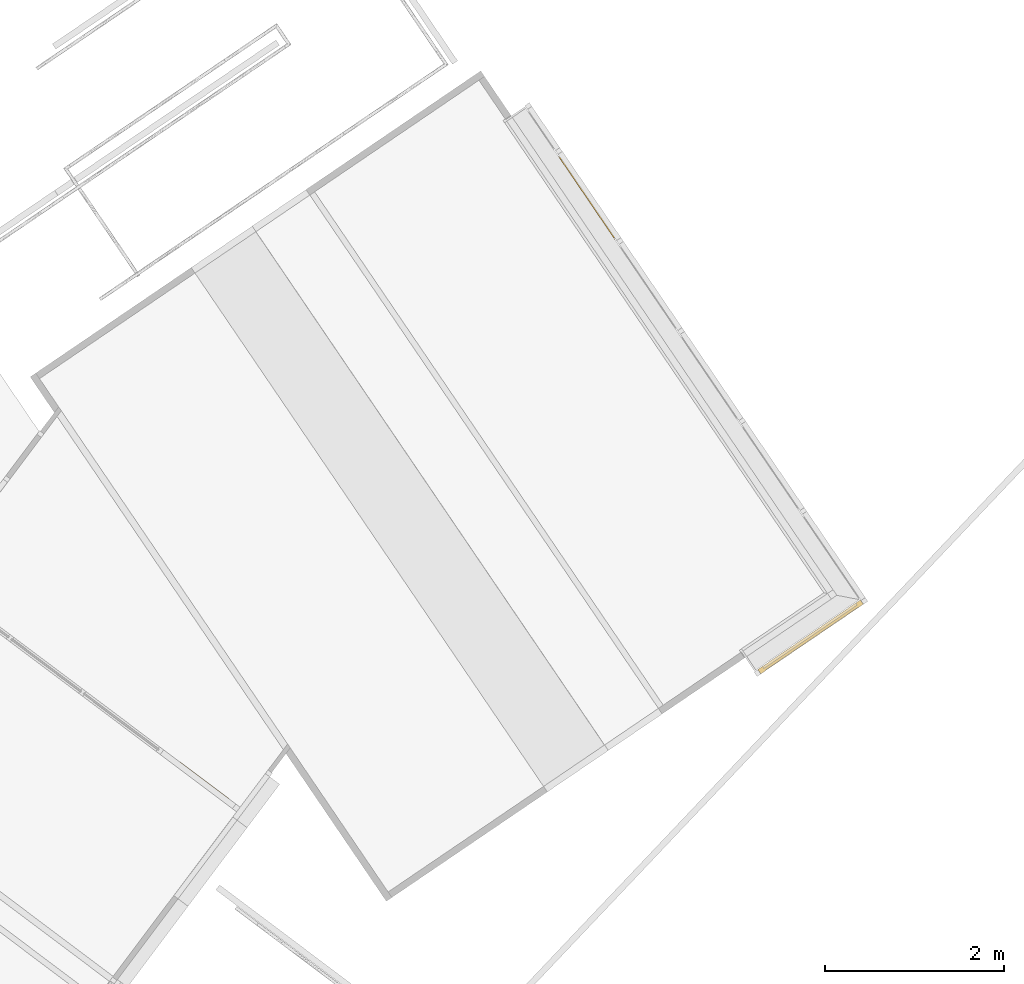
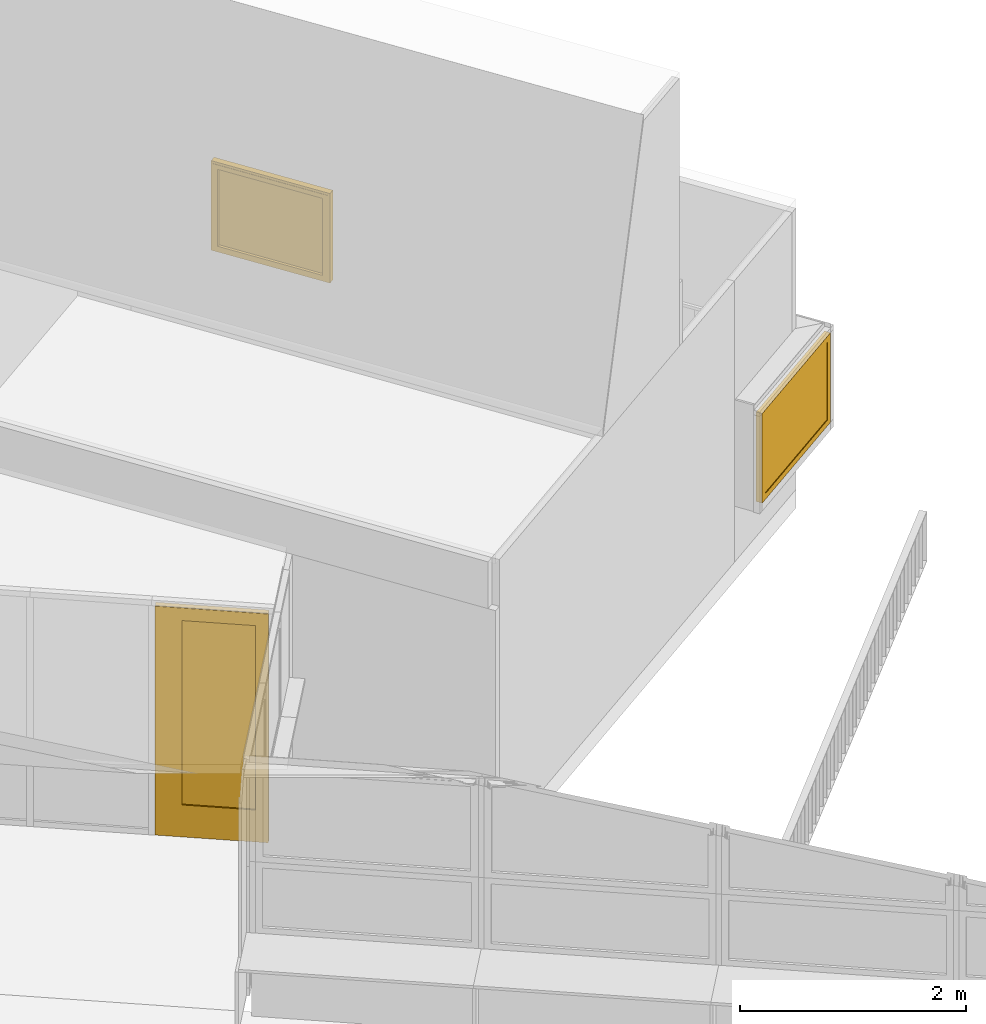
# One storey, part 237 of 243: 2 windows, 1 door, 3 elements without a shape of their own.
"""IFC2X3 building model written with IfcOpenShell, lengths in metres."""

from ifc_helpers import new_model, entity, si_unit, converted_unit, derived_unit, direction, frame, origin, place, context, subcontext, project, spatial, faceted_brep, source, transform, mapped, material, material_list, type_object, type_shapes, element, aggregate, save


model = new_model("IFC2X3")

# Units and contexts
model_context = context("Model", 3, precision=1e-05, world=origin(), true_north=direction((6.123031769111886e-17, 1.0)))
body_context = subcontext(model_context, "Body", "Model", "MODEL_VIEW")
ifc_project = project(units=[si_unit("LENGTHUNIT", "METRE"), si_unit("AREAUNIT", "SQUARE_METRE"), si_unit("VOLUMEUNIT", "CUBIC_METRE"), converted_unit("PLANEANGLEUNIT", "DEGREE", entity("IfcRatioMeasure", 0.017453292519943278), si_unit("PLANEANGLEUNIT", "RADIAN"), dimensions=[0, 0, 0, 0, 0, 0, 0]), si_unit("MASSUNIT", "GRAM", prefix="KILO"), derived_unit("MASSDENSITYUNIT", [(si_unit("MASSUNIT", "GRAM", prefix="KILO"), 1), (si_unit("LENGTHUNIT", "METRE"), -3)]), derived_unit("IONCONCENTRATIONUNIT", [(si_unit("MASSUNIT", "GRAM", prefix="KILO"), 1), (si_unit("LENGTHUNIT", "METRE"), -3)]), derived_unit("MOMENTOFINERTIAUNIT", [(si_unit("LENGTHUNIT", "METRE"), 4)]), si_unit("TIMEUNIT", "SECOND"), si_unit("FREQUENCYUNIT", "HERTZ"), si_unit("THERMODYNAMICTEMPERATUREUNIT", "DEGREE_CELSIUS"), derived_unit("THERMALTRANSMITTANCEUNIT", [(si_unit("MASSUNIT", "GRAM", prefix="KILO"), 1), (si_unit("THERMODYNAMICTEMPERATUREUNIT", "KELVIN"), -1), (si_unit("TIMEUNIT", "SECOND"), -3)]), derived_unit("THERMALCONDUCTANCEUNIT", [(si_unit("MASSUNIT", "GRAM", prefix="KILO"), 1), (si_unit("THERMODYNAMICTEMPERATUREUNIT", "KELVIN"), -1), (si_unit("TIMEUNIT", "SECOND"), -3), (si_unit("LENGTHUNIT", "METRE"), 1)]), derived_unit("VOLUMETRICFLOWRATEUNIT", [(si_unit("LENGTHUNIT", "METRE"), 3), (si_unit("TIMEUNIT", "SECOND"), -1)]), derived_unit("MASSFLOWRATEUNIT", [(si_unit("MASSUNIT", "GRAM", prefix="KILO"), 1), (si_unit("TIMEUNIT", "SECOND"), -1)]), derived_unit("ROTATIONALFREQUENCYUNIT", [(si_unit("TIMEUNIT", "SECOND"), -1)]), si_unit("ELECTRICCURRENTUNIT", "AMPERE"), si_unit("ELECTRICVOLTAGEUNIT", "VOLT"), si_unit("POWERUNIT", "WATT"), si_unit("FORCEUNIT", "NEWTON", prefix="KILO"), si_unit("ILLUMINANCEUNIT", "LUX"), si_unit("LUMINOUSFLUXUNIT", "LUMEN"), si_unit("LUMINOUSINTENSITYUNIT", "CANDELA"), derived_unit("USERDEFINED", [(si_unit("MASSUNIT", "GRAM", prefix="KILO"), -1), (si_unit("LENGTHUNIT", "METRE"), -2), (si_unit("TIMEUNIT", "SECOND"), 3), (si_unit("LUMINOUSFLUXUNIT", "LUMEN"), 1)]), derived_unit("USERDEFINED", [(si_unit("MASSUNIT", "GRAM", prefix="KILO"), 1), (si_unit("TIMEUNIT", "SECOND"), -3), (si_unit("LENGTHUNIT", "METRE"), 3), (si_unit("ELECTRICCURRENTUNIT", "AMPERE"), -2)]), derived_unit("SOUNDPOWERUNIT", [(si_unit("MASSUNIT", "GRAM", prefix="KILO"), 1), (si_unit("TIMEUNIT", "SECOND"), -3), (si_unit("LENGTHUNIT", "METRE"), 2)]), derived_unit("SOUNDPRESSUREUNIT", [(si_unit("MASSUNIT", "GRAM", prefix="KILO"), 1), (si_unit("LENGTHUNIT", "METRE"), -1), (si_unit("TIMEUNIT", "SECOND"), -2)]), derived_unit("LINEARVELOCITYUNIT", [(si_unit("LENGTHUNIT", "METRE"), 1), (si_unit("TIMEUNIT", "SECOND"), -1)]), si_unit("PRESSUREUNIT", "PASCAL"), derived_unit("USERDEFINED", [(si_unit("MASSUNIT", "GRAM", prefix="KILO"), 1), (si_unit("LENGTHUNIT", "METRE"), -2), (si_unit("TIMEUNIT", "SECOND"), -2)]), derived_unit("LINEARFORCEUNIT", [(si_unit("MASSUNIT", "GRAM", prefix="KILO"), 1), (si_unit("TIMEUNIT", "SECOND"), -2)]), derived_unit("PLANARFORCEUNIT", [(si_unit("MASSUNIT", "GRAM", prefix="KILO"), 1), (si_unit("LENGTHUNIT", "METRE"), -1), (si_unit("TIMEUNIT", "SECOND"), -2)]), derived_unit("SPECIFICHEATCAPACITYUNIT", [(si_unit("THERMODYNAMICTEMPERATUREUNIT", "KELVIN"), -1), (si_unit("LENGTHUNIT", "METRE"), 2), (si_unit("TIMEUNIT", "SECOND"), -2)]), derived_unit("HEATINGVALUEUNIT", [(si_unit("LENGTHUNIT", "METRE"), 2), (si_unit("TIMEUNIT", "SECOND"), -2)]), derived_unit("VAPORPERMEABILITYUNIT", [(si_unit("LENGTHUNIT", "METRE"), -1), (si_unit("TIMEUNIT", "SECOND"), 1)]), derived_unit("DYNAMICVISCOSITYUNIT", [(si_unit("MASSUNIT", "GRAM", prefix="KILO"), 1), (si_unit("TIMEUNIT", "SECOND"), -1), (si_unit("LENGTHUNIT", "METRE"), -1)]), derived_unit("THERMALEXPANSIONCOEFFICIENTUNIT", [(si_unit("THERMODYNAMICTEMPERATUREUNIT", "KELVIN"), -1)]), derived_unit("MODULUSOFELASTICITYUNIT", [(si_unit("MASSUNIT", "GRAM", prefix="KILO"), 1), (si_unit("LENGTHUNIT", "METRE"), -1), (si_unit("TIMEUNIT", "SECOND"), -2)]), derived_unit("ISOTHERMALMOISTURECAPACITYUNIT", [(si_unit("LENGTHUNIT", "METRE"), 3), (si_unit("MASSUNIT", "GRAM", prefix="KILO"), -1)]), derived_unit("MOISTUREDIFFUSIVITYUNIT", [(si_unit("TIMEUNIT", "SECOND"), -1), (si_unit("LENGTHUNIT", "METRE"), 2)])], contexts=[model_context])

# Site, building, storey
site_placement = place(None, frame((0.0, 0.0, 235.0), z_axis=(0.0, 0.0, 1.0), x_axis=(-0.7996477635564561, 0.6004693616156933, 0.0)))
site = spatial("IfcSite", under=ifc_project, at=site_placement, Name="Default", CompositionType="ELEMENT")
building_placement = place(site_placement, origin())
building = spatial("IfcBuilding", under=site, at=building_placement, CompositionType="ELEMENT")
storey_placement = place(building_placement, origin())
storey = spatial("IfcBuildingStorey", under=building, at=storey_placement, Name="P0- Escola", CompositionType="ELEMENT", Elevation=0.0)

# Curtain wall, door
curtain_wall_type_1 = type_object("IfcCurtainWallType", Name="Muro cortina:MC- INT- C1", PredefinedType="NOTDEFINED")
curtain_wall_1_placement = place(storey_placement, origin())
curtain_wall_1 = element("IfcCurtainWall", 1, at=curtain_wall_1_placement, inside=storey, type_object=curtain_wall_type_1, Name="Muro cortina:MC- INT- C1", ObjectType="Muro cortina:MC- INT- C1")
ifc_material_1 = material(Name="_Fusta massisa- T1")
ifc_material_2 = material(Name="_Vidre")
ifc_material_list_1 = material_list([ifc_material_1, ifc_material_2])
door_style = type_object("IfcDoorStyle", Name="MC- Fusta- conjunt porta:MC- Fusta- conjunt Porta aules", ConstructionType="NOTDEFINED", OperationType="NOTDEFINED", ParameterTakesPrecedence=False, Sizeable=False, material=ifc_material_list_1)
shared_shape_1 = source(origin(), body_context, "Body", "Brep", [
    faceted_brep([(0.2800000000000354, -0.03499999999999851, 2.3522612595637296), (0.2800000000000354, -0.03499999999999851, 0.3299999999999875), (0.2800000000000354, -0.0049999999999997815, 0.3299999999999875), (0.2800000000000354, -0.0049999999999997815, 2.3522612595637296), (-0.40500000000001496, -0.03499999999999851, 0.3299999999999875), (-0.40500000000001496, -0.0049999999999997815, 0.3299999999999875), (-0.40500000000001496, -0.03499999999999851, 2.3522612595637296), (-0.40500000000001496, -0.0049999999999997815, 2.3522612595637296), (0.2650000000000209, -0.0049999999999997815, 2.3372612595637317), (-0.38999999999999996, -0.0049999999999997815, 2.3372612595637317), (-0.38999999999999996, -0.0049999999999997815, 0.3449999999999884), (0.2650000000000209, -0.0049999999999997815, 0.3449999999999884), (0.2650000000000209, -0.03499999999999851, 2.3372612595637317), (0.2650000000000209, -0.03499999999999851, 0.3449999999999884), (-0.38999999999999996, -0.03499999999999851, 0.3449999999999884), (-0.38999999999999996, -0.03499999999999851, 2.3372612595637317)], [[[0, 1, 2, 3]], [[1, 4, 5, 2]], [[4, 6, 7, 5]], [[8, 9, 10, 11], [3, 2, 5, 7]], [[12, 13, 14, 15], [0, 6, 4, 1]], [[13, 12, 8, 11]], [[14, 13, 11, 10]], [[15, 14, 10, 9]], [[6, 0, 3, 7]], [[12, 15, 9, 8]]], outer=[[True], [True], [True], [False, True], [False, True], [True], [True], [True], [True], [True]]),
    faceted_brep([(0.4750000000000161, 0.029999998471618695, 0.0), (0.4750000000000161, 0.0, 0.0), (0.49000000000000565, 0.0, 0.0), (0.49000000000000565, -0.029999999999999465, 0.0), (-0.4899999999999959, -0.029999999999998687, 0.0), (-0.4899999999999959, 0.0, 0.0), (-0.4749999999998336, 0.0, 0.0), (-0.4749999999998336, 0.02999999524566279, 0.0), (0.4900000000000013, -0.02999999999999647, 2.4622612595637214), (-0.4899999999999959, -0.029999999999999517, 2.4622612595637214), (0.28000000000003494, -0.029999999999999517, 0.3300000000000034), (-0.4050000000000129, -0.029999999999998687, 0.3300000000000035), (-0.4050000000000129, -0.029999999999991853, 2.352261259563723), (0.2800000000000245, -0.029999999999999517, 2.352261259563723), (0.4900000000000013, 0.0, 2.4622612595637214), (-0.4899999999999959, 0.0, 2.4622612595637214), (0.4750000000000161, 0.029999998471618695, 2.447261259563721), (0.4750000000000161, 0.0, 2.447261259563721), (-0.4749999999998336, 0.0, 2.447261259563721), (-0.4749999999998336, 0.02999999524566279, 2.447261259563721), (-0.389999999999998, 0.029999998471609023, 0.3450000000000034), (0.26500000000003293, 0.029999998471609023, 0.3450000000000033), (0.26500000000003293, 0.029999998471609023, 2.337261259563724), (-0.389999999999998, 0.029999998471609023, 2.3372612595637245), (-0.389999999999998, 0.01500000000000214, 0.3450000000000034), (0.26500000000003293, 0.01500000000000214, 0.3450000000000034), (0.26500000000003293, 0.01499999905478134, 2.337261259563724), (-0.389999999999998, 0.02999999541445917, 2.337261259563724), (-0.389999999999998, 0.014999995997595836, 2.337261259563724), (0.26500000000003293, 0.01500000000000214, 2.337261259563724), (-0.4050000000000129, 0.01500000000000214, 0.3300000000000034), (0.280000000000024, 0.01500000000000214, 0.3300000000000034), (0.280000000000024, 0.01500000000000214, 2.352261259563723), (-0.4050000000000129, 0.01500000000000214, 2.352261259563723), (0.280000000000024, 0.014999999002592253, 0.3300000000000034), (-0.4050000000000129, 0.014999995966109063, 2.352261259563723), (0.280000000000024, 0.014999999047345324, 2.352261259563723)], [[[0, 1, 2, 3, 4, 5, 6, 7]], [[8, 9, 4, 3], [10, 11, 12, 13]], [[8, 3, 2, 14]], [[15, 5, 4, 9]], [[16, 17, 1, 0]], [[14, 2, 1, 17, 18, 6, 5, 15]], [[18, 19, 7, 6]], [[16, 0, 7, 19], [20, 21, 22, 23]], [[21, 20, 24, 25]], [[21, 25, 26, 22]], [[24, 20, 27, 28]], [[25, 24, 28, 29], [30, 31, 32, 33]], [[11, 10, 31, 30]], [[34, 10, 13, 32]], [[11, 30, 35, 12]], [[9, 8, 14, 15]], [[17, 16, 19, 18]], [[23, 22, 29, 28]], [[13, 12, 33, 36]]], outer=[[True], [True, False], [True], [True], [True], [True], [True], [True, False], [True], [True], [True], [False, True], [True], [True], [True], [True], [True], [True], [True]]),
    faceted_brep([(-0.40500000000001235, 0.014999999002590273, 0.3300000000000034), (0.28000000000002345, 0.014999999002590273, 0.3300000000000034), (0.28000000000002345, -0.004999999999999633, 0.3300000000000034), (-0.4050000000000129, -0.0049999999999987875, 0.3300000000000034), (-0.40500000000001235, 0.014999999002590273, 2.3522612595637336), (0.28000000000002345, 0.014999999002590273, 2.3522612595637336), (0.28000000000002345, -0.004999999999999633, 2.3522612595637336), (-0.4050000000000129, -0.0049999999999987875, 2.3522612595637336)], [[[0, 1, 2, 3]], [[4, 5, 1, 0]], [[5, 6, 2, 1]], [[6, 7, 3, 2]], [[7, 4, 0, 3]], [[4, 7, 6, 5]]]),
    faceted_brep([(0.5000000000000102, -0.029999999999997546, 0.0), (0.4900000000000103, -0.029999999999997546, 0.0), (0.4900000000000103, 0.0, 0.0), (0.47500000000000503, 0.0, 0.0), (0.47500000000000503, 0.0300000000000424, 0.0), (0.5000000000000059, 0.0300000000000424, 0.0), (0.5000000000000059, 0.02600000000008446, 0.0), (0.5049999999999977, 0.02600000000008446, 0.0), (0.5049999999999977, -0.02599999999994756, 0.0), (0.5000000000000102, -0.02599999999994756, 0.0), (0.5000000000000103, -0.029999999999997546, 2.4722612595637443), (-0.5000000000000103, -0.029999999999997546, 2.4722612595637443), (-0.5000000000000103, -0.029999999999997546, 0.0), (-0.4900000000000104, -0.029999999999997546, 0.0), (-0.4900000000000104, -0.029999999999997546, 2.4622612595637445), (0.4900000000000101, -0.029999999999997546, 2.4622612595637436), (0.4900000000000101, 0.0, 2.4622612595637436), (-0.4900000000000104, 0.0, 2.4622612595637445), (-0.4900000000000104, 0.0, 0.0), (-0.4750000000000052, 0.0, 0.0), (-0.4750000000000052, 0.0, 2.447261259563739), (0.47500000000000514, 0.0, 2.447261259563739), (0.47500000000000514, 0.0300000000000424, 2.447261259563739), (-0.4750000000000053, 0.0300000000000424, 2.447261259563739), (-0.4750000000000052, 0.0300000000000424, 0.0), (-0.500000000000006, 0.0300000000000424, 0.0), (-0.500000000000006, 0.0300000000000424, 2.47226125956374), (0.5000000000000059, 0.0300000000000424, 2.47226125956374), (0.5000000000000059, 0.02600000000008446, 2.47226125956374), (-0.5000000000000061, 0.02600000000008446, 2.47226125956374), (-0.500000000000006, 0.02600000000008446, 0.0), (-0.5049999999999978, 0.02600000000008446, 0.0), (-0.5049999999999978, 0.02600000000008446, 2.4772612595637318), (0.5049999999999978, 0.02600000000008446, 2.4772612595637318), (0.5049999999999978, -0.02599999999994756, 2.4772612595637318), (-0.504999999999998, -0.02599999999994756, 2.4772612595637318), (-0.5049999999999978, -0.02599999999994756, 0.0), (-0.5000000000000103, -0.02599999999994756, 0.0), (-0.5000000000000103, -0.02599999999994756, 2.4722612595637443), (0.50000000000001, -0.02599999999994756, 2.472261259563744)], [[[0, 1, 2, 3, 4, 5, 6, 7, 8, 9]], [[1, 0, 10, 11, 12, 13, 14, 15]], [[2, 1, 15, 16]], [[3, 2, 16, 17, 18, 19, 20, 21]], [[4, 3, 21, 22]], [[5, 4, 22, 23, 24, 25, 26, 27]], [[6, 5, 27, 28]], [[7, 6, 28, 29, 30, 31, 32, 33]], [[8, 7, 33, 34]], [[9, 8, 34, 35, 36, 37, 38, 39]], [[0, 9, 39, 10]], [[11, 38, 37, 12]], [[12, 37, 36, 31, 30, 25, 24, 19, 18, 13]], [[17, 14, 13, 18]], [[23, 20, 19, 24]], [[29, 26, 25, 30]], [[35, 32, 31, 36]], [[16, 15, 14, 17]], [[22, 21, 20, 23]], [[28, 27, 26, 29]], [[34, 33, 32, 35]], [[10, 39, 38, 11]]]),
])
type_shapes(door_style, [shared_shape_1])
door_placement = place(curtain_wall_1_placement, frame((62.67548814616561, -44.67643550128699, 0.0)))
door = element("IfcDoor", 2, at=door_placement, type_object=door_style, material=ifc_material_list_1, Name="MC- Fusta- conjunt porta:MC- Fusta- conjunt Porta aules", ObjectType="MC- Fusta- conjunt porta:MC- Fusta- conjunt Porta aules", OverallHeight=2.477261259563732, OverallWidth=1.0099999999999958, context=body_context, shape_type="MappedRepresentation", body=[
    mapped(shared_shape_1, transform((0.0, 0.0, 0.0), scale=1.0)),
])
aggregate(curtain_wall_1, [door])

# Curtain wall, window
curtain_wall_type_2 = type_object("IfcCurtainWallType", Name="Muro cortina:MC- EXT- MC7", PredefinedType="NOTDEFINED")
curtain_wall_2_placement = place(storey_placement, origin())
curtain_wall_2 = element("IfcCurtainWall", 3, at=curtain_wall_2_placement, inside=storey, type_object=curtain_wall_type_2, Name="Muro cortina:MC- EXT- MC7", ObjectType="Muro cortina:MC- EXT- MC7")
ifc_material_3 = material(Name="_Alumini- T1- Perfil")
ifc_material_list_2 = material_list([ifc_material_2, ifc_material_3])
window_style_1 = type_object("IfcWindowStyle", Name="MC- Alu- Conjunt vidre fix- 62x60 cm:MC- Alu- Conjunt vidre fix- 62x60 cm", ConstructionType="NOTDEFINED", OperationType="NOTDEFINED", ParameterTakesPrecedence=False, Sizeable=False, material=ifc_material_list_2)
shared_shape_2 = source(origin(), body_context, "Body", "Brep", [
    faceted_brep([(0.6461932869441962, -0.007600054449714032, 0.048806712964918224), (0.6461932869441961, -0.03160022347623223, 0.048806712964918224), (-0.6461932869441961, -0.03160022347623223, 0.048806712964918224), (-0.6461932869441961, -0.007600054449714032, 0.048806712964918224), (0.6461932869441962, -0.007600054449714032, 0.9184999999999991), (-0.646193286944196, -0.007600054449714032, 0.9184999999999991), (-0.6461932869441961, -0.03160022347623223, 0.9184999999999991), (0.6461932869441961, -0.03160022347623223, 0.9184999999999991)], [[[0, 1, 2, 3]], [[4, 0, 3, 5]], [[5, 3, 2, 6]], [[6, 2, 1, 7]], [[7, 1, 0, 4]], [[4, 5, 6, 7]]]),
    faceted_brep([(0.6949999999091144, -0.05999999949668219, 0.967499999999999), (0.6949999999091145, -0.05999999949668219, 0.0), (0.6949999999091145, 0.0, 0.0), (0.6949999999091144, 0.0, 0.967499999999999), (-0.6949999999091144, 0.0, 0.967499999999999), (-0.6949999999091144, 0.0, 0.0), (0.6321931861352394, 0.0, 0.9046931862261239), (-0.6321931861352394, 0.0, 0.9046931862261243), (-0.6321931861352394, 0.0, 0.062806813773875), (0.6321931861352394, 0.0, 0.062806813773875), (-0.6949999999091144, -0.05999999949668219, 0.0), (-0.6949999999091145, -0.05999999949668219, 0.9674999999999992), (-0.6321960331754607, -0.05999999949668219, 0.9046960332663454), (0.6321960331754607, -0.05999999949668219, 0.9046960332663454), (0.6321960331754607, -0.05999999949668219, 0.0628039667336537), (-0.6321960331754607, -0.05999999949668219, 0.0628039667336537), (0.6321960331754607, -0.03160022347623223, 0.9046960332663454), (0.6321960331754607, -0.03160022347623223, 0.0628039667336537), (-0.6321960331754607, -0.03160022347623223, 0.0628039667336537), (-0.6321960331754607, -0.03160022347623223, 0.9046960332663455), (-0.6461932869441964, -0.03160022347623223, 0.918693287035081), (0.6461932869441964, -0.03160022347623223, 0.918693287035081), (0.6461932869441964, -0.03160022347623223, 0.048806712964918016), (-0.6461932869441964, -0.03160022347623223, 0.04880671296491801), (0.6461932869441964, -0.007600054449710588, 0.918693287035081), (0.6461932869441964, -0.007600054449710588, 0.04880671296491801), (-0.6461932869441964, -0.007600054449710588, 0.048806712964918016), (-0.6461932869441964, -0.007600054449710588, 0.918693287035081), (-0.6321931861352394, -0.007600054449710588, 0.904693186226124), (0.6321931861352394, -0.007600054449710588, 0.904693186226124), (0.6321931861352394, -0.007600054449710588, 0.062806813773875), (-0.6321931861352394, -0.007600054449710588, 0.062806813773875)], [[[0, 1, 2, 3]], [[4, 3, 2, 5], [6, 7, 8, 9]], [[1, 10, 5, 2]], [[0, 11, 10, 1], [12, 13, 14, 15]], [[16, 17, 14, 13]], [[17, 18, 15, 14]], [[16, 19, 18, 17], [20, 21, 22, 23]], [[24, 25, 22, 21]], [[25, 26, 23, 22]], [[24, 27, 26, 25], [28, 29, 30, 31]], [[6, 9, 30, 29]], [[9, 8, 31, 30]], [[10, 11, 4, 5]], [[18, 19, 12, 15]], [[26, 27, 20, 23]], [[8, 7, 28, 31]], [[11, 0, 3, 4]], [[19, 16, 13, 12]], [[27, 24, 21, 20]], [[7, 6, 29, 28]]], outer=[[True], [True, False], [True], [True, False], [True], [True], [False, True], [True], [True], [True, False], [True], [True], [True], [True], [True], [True], [True], [True], [True], [True]]),
])
type_shapes(window_style_1, [shared_shape_2])
window_1_placement = place(curtain_wall_2_placement, frame((58.11811337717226, -50.061834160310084, 0.685), z_axis=(0.0, 0.0, 1.0), x_axis=(0.32415556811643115, 0.9460037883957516, 0.0)))
window_1 = element("IfcWindow", 4, at=window_1_placement, type_object=window_style_1, material=ifc_material_list_2, Name="MC- Alu- Conjunt vidre fix- 62x60 cm:MC- Alu- Conjunt vidre fix- 62x60 cm", ObjectType="MC- Alu- Conjunt vidre fix- 62x60 cm:MC- Alu- Conjunt vidre fix- 62x60 cm", OverallHeight=0.9674999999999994, OverallWidth=1.3899999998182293, context=body_context, shape_type="MappedRepresentation", body=[
    mapped(shared_shape_2, transform((0.0, 0.0, 0.0), scale=1.0)),
])
aggregate(curtain_wall_2, [window_1])

curtain_wall_3_placement = place(storey_placement, origin())
curtain_wall_3 = element("IfcCurtainWall", 5, at=curtain_wall_3_placement, inside=storey, type_object=curtain_wall_type_2, Name="Muro cortina:MC- EXT- MC7", ObjectType="Muro cortina:MC- EXT- MC7")
window_style_2 = type_object("IfcWindowStyle", Name="MC- Alu- Conjunt finestra basculant- 68x68 cm:MC- Alu- Conjunt finestra basculant- 68x68 cm", ConstructionType="NOTDEFINED", OperationType="NOTDEFINED", ParameterTakesPrecedence=False, Sizeable=False, material=ifc_material_list_2)
shared_shape_3 = source(origin(), body_context, "Body", "Brep", [
    faceted_brep([(0.5324117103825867, -0.03559830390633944, 0.051999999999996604), (-0.5324117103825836, -0.03559830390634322, 0.051999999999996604), (-0.5324117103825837, -0.011598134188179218, 0.051999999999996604), (0.5324117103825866, -0.011598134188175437, 0.051999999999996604), (0.5324117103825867, -0.03559830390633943, 0.9153027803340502), (0.5324117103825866, -0.011598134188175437, 0.9153027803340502), (-0.5324117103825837, -0.011598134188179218, 0.9153027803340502), (-0.5324117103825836, -0.03559830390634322, 0.9153027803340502)], [[[0, 1, 2, 3]], [[4, 0, 3, 5]], [[5, 3, 2, 6]], [[6, 2, 1, 7]], [[7, 1, 0, 4]], [[4, 5, 6, 7]]]),
    faceted_brep([(-0.5167108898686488, -0.009998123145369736, 0.8996019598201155), (-0.5167108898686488, -0.009998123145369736, 0.06789804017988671), (-0.5167108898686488, -0.007998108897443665, 0.06789804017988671), (-0.5167108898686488, -0.007998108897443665, 0.8996019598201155), (-0.5456089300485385, -0.007998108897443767, 0.9285000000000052), (0.5456089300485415, -0.00799810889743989, 0.9285000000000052), (0.5456089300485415, -0.00799810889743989, 0.03899999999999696), (-0.5456089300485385, -0.007998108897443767, 0.03899999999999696), (0.5167108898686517, -0.007998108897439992, 0.8996019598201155), (0.5167108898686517, -0.007998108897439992, 0.06789804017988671), (0.5167108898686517, -0.009998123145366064, 0.06789804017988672), (0.5167108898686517, -0.009998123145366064, 0.8996019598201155), (0.5324117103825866, -0.009998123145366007, 0.9153027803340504), (-0.5324117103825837, -0.009998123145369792, 0.9153027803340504), (-0.5324117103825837, -0.009998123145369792, 0.05219721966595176), (0.5324117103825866, -0.009998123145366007, 0.052197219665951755), (-0.5324117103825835, -0.04079986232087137, 0.9153027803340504), (-0.5324117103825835, -0.04079986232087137, 0.052197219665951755), (0.5324117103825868, -0.040799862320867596, 0.05219721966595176), (0.5324117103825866, -0.04079986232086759, 0.9153027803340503), (0.5167108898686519, -0.040799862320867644, 0.8996019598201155), (-0.5167108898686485, -0.040799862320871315, 0.8996019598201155), (-0.5167108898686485, -0.040799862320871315, 0.06789804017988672), (0.5167108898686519, -0.040799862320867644, 0.06789804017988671), (-0.5167108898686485, -0.06800005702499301, 0.8996019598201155), (-0.5167108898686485, -0.06800005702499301, 0.06789804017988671), (0.516710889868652, -0.06800005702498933, 0.06789804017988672), (0.5167108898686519, -0.06800005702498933, 0.8996019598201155), (0.5631128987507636, -0.06800005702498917, 0.9460039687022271), (-0.5631128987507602, -0.06800005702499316, 0.9460039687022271), (-0.5631128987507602, -0.06800005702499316, 0.021496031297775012), (0.5631128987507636, -0.06800005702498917, 0.021496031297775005), (-0.5631128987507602, -0.06450003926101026, 0.9460039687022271), (-0.5631128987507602, -0.06450003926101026, 0.021496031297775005), (0.5631128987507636, -0.06450003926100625, 0.021496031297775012), (0.5631128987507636, -0.06450003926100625, 0.9460039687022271), (0.5456089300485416, -0.06450003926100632, 0.9285000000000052), (-0.5456089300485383, -0.0645000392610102, 0.9285000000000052), (-0.5456089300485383, -0.0645000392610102, 0.03899999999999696), (0.5456089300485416, -0.06450003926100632, 0.038999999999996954)], [[[0, 1, 2, 3]], [[4, 5, 6, 7], [8, 3, 2, 9]], [[1, 10, 9, 2]], [[0, 11, 10, 1], [12, 13, 14, 15]], [[16, 17, 14, 13]], [[17, 18, 15, 14]], [[16, 19, 18, 17], [20, 21, 22, 23]], [[24, 25, 22, 21]], [[25, 26, 23, 22]], [[24, 27, 26, 25], [28, 29, 30, 31]], [[32, 33, 30, 29]], [[33, 34, 31, 30]], [[32, 35, 34, 33], [36, 37, 38, 39]], [[4, 7, 38, 37]], [[7, 6, 39, 38]], [[10, 11, 8, 9]], [[18, 19, 12, 15]], [[26, 27, 20, 23]], [[34, 35, 28, 31]], [[6, 5, 36, 39]], [[11, 0, 3, 8]], [[19, 16, 13, 12]], [[27, 24, 21, 20]], [[35, 32, 29, 28]], [[5, 4, 37, 36]]], outer=[[True], [True, False], [True], [False, True], [True], [True], [True, False], [True], [True], [False, True], [True], [True], [True, False], [True], [True], [True], [True], [True], [True], [True], [True], [True], [True], [True], [True]]),
    faceted_brep([(0.5216931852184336, 0.0, 0.9046931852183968), (0.5216931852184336, 0.0, 0.06280681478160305), (0.5216931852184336, -0.0040000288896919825, 0.06280681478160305), (0.5216931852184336, -0.0040000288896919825, 0.9046931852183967), (-0.5216931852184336, -0.0040000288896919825, 0.9046931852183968), (-0.5216931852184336, -0.0040000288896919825, 0.06280681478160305), (0.5570998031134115, -0.0040000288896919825, 0.9400998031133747), (-0.5570998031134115, -0.0040000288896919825, 0.9400998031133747), (-0.5570998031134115, -0.0040000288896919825, 0.027400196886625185), (0.5570998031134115, -0.0040000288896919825, 0.02740019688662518), (-0.5216931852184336, 0.0, 0.06280681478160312), (-0.5216931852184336, 0.0, 0.9046931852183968), (-0.5845000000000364, 0.0, 0.9674999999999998), (0.5845000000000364, 0.0, 0.9674999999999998), (0.5845000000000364, 0.0, 0.0), (-0.5845000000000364, 0.0, 0.0), (0.5845000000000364, -0.05999999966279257, 0.9674999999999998), (0.5845000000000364, -0.05999999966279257, 0.0), (-0.5845000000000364, -0.05999999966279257, 0.0), (-0.5845000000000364, -0.05999999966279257, 0.9674999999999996), (-0.5570998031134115, -0.05999999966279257, 0.9400998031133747), (0.5570998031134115, -0.05999999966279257, 0.9400998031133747), (0.5570998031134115, -0.05999999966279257, 0.027400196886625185), (-0.5570998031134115, -0.05999999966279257, 0.02740019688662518)], [[[0, 1, 2, 3]], [[4, 3, 2, 5], [6, 7, 8, 9]], [[1, 10, 5, 2]], [[0, 11, 10, 1], [12, 13, 14, 15]], [[16, 17, 14, 13]], [[17, 18, 15, 14]], [[16, 19, 18, 17], [20, 21, 22, 23]], [[6, 9, 22, 21]], [[9, 8, 23, 22]], [[10, 11, 4, 5]], [[18, 19, 12, 15]], [[8, 7, 20, 23]], [[11, 0, 3, 4]], [[19, 16, 13, 12]], [[7, 6, 21, 20]]], outer=[[True], [False, True], [True], [False, True], [True], [True], [True, False], [True], [True], [True], [True], [True], [True], [True], [True]]),
])
type_shapes(window_style_2, [shared_shape_3])
window_2_placement = place(curtain_wall_3_placement, frame((63.08254578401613, -52.56102965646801, 0.685), z_axis=(0.0, 0.0, 1.0), x_axis=(-0.9460037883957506, 0.3241555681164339, 0.0)))
window_2 = element("IfcWindow", 6, at=window_2_placement, type_object=window_style_2, material=ifc_material_list_2, Name="MC- Alu- Conjunt finestra basculant- 68x68 cm:MC- Alu- Conjunt finestra basculant- 68x68 cm", ObjectType="MC- Alu- Conjunt finestra basculant- 68x68 cm:MC- Alu- Conjunt finestra basculant- 68x68 cm", OverallHeight=0.9674999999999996, OverallWidth=1.169000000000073, context=body_context, shape_type="MappedRepresentation", body=[
    mapped(shared_shape_3, transform((0.0, 0.0, 0.0), scale=1.0)),
])
aggregate(curtain_wall_3, [window_2])

save(model, "model.ifc")
